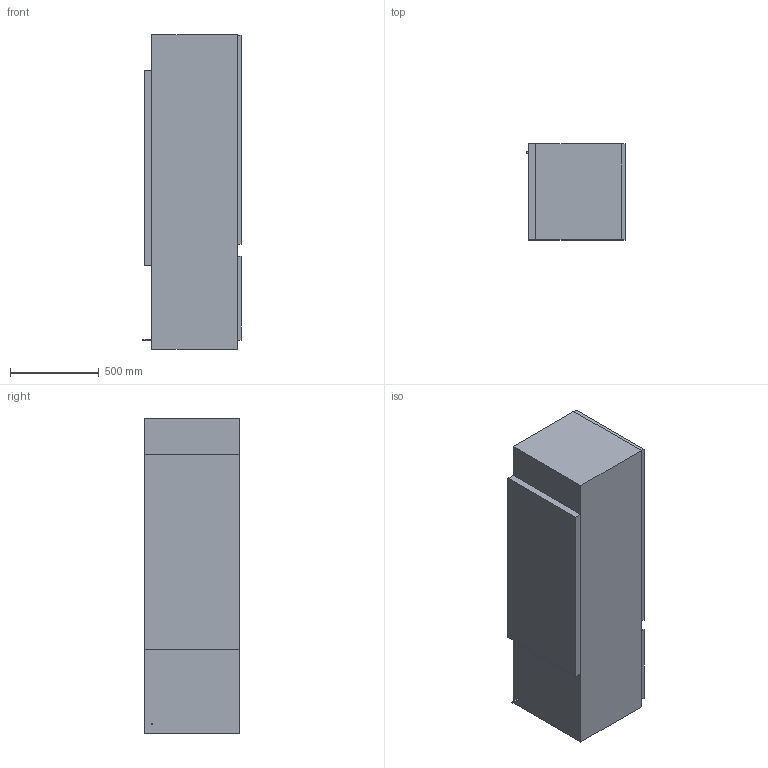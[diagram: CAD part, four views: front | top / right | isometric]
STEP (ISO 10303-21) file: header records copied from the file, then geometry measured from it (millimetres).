
FILE_DESCRIPTION(/* description */ (''),/* implementation_level */ '2;1');
FILE_NAME(/* name */ 'KF37122iD',/* time_stamp */ '2014-09-03T10:21:22+02:00',/* author */ (''),/* organization */ (''),/* preprocessor_version */ 'ST-DEVELOPER v10',/* originating_system */ '',/* authorisation */ '');
FILE_SCHEMA (('AUTOMOTIVE_DESIGN_CC2'));
Length unit declared in the file: millimetre
Products named in the file (1): 1
Bounding box: 554.37 x 540 x 1770 mm (x, y, z)
Volume: 504227502.9 mm3; surface area: 7363354.2 mm2
Topology: 5 solids, 5 shells, 30 faces, 62 edges, 38 vertices
Faces by surface type: bspline 30
Entity records: 1013 total; most frequent: CARTESIAN_POINT 553, ORIENTED_EDGE 116, EDGE_CURVE 58, B_SPLINE_CURVE_WITH_KNOTS 58, VERTEX_POINT 38, ADVANCED_FACE 30, FACE_OUTER_BOUND 30, EDGE_LOOP 30
